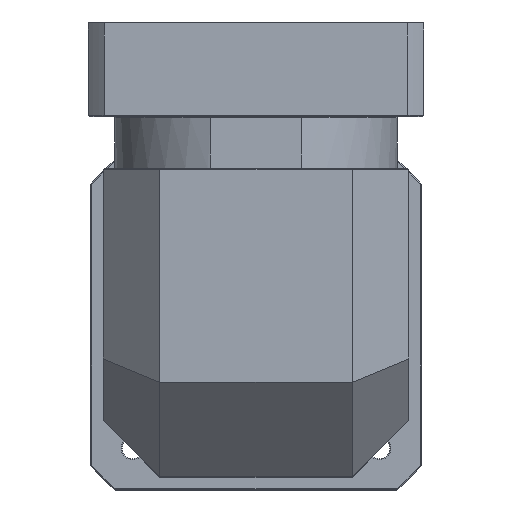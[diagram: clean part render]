
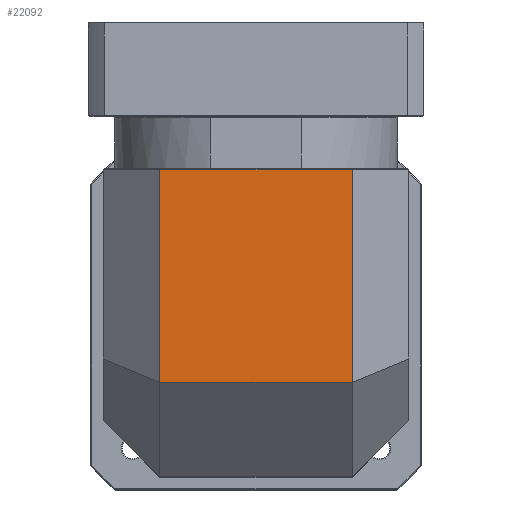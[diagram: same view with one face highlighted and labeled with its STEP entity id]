
A CAD part, top view. The second image highlights one B-rep face of the part: STEP entity #22092.
In plain terms, the highlighted planar face has unit normal (0, 0, 1).
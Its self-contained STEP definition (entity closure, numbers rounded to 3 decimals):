
#1867 = ORIENTED_EDGE ( 'NONE', *, *, #95070, .F. ) ;
#1959 = VECTOR ( 'NONE', #19892, 1000. ) ;
#2561 = ORIENTED_EDGE ( 'NONE', *, *, #8528, .T. ) ;
#7457 = AXIS2_PLACEMENT_3D ( 'NONE', #87449, #66553, #13803 ) ;
#8528 = EDGE_CURVE ( 'NONE', #65611, #48098, #125084, .T. ) ;
#9405 = LINE ( 'NONE', #78450, #128118 ) ;
#13803 = DIRECTION ( 'NONE',  ( 1., 0., 0. ) ) ;
#19135 = ORIENTED_EDGE ( 'NONE', *, *, #80257, .F. ) ;
#19601 = EDGE_LOOP ( 'NONE', ( #19135, #2561, #74886, #1867 ) ) ;
#19892 = DIRECTION ( 'NONE',  ( -1., 0., 0. ) ) ;
#22092 = ADVANCED_FACE ( 'NONE', ( #124587 ), #97439, .F. ) ;
#29695 = CARTESIAN_POINT ( 'NONE',  ( -39.808, 137.496, 119.091 ) ) ;
#35487 = LINE ( 'NONE', #29695, #50167 ) ;
#41232 = CARTESIAN_POINT ( 'NONE',  ( -39.808, 23.996, 119.091 ) ) ;
#42419 = VECTOR ( 'NONE', #101203, 1000. ) ;
#45769 = CARTESIAN_POINT ( 'NONE',  ( -171.808, 136.996, 119.091 ) ) ;
#48098 = VERTEX_POINT ( 'NONE', #103107 ) ;
#50167 = VECTOR ( 'NONE', #93413, 1000. ) ;
#57253 = LINE ( 'NONE', #113831, #1959 ) ;
#63366 = CARTESIAN_POINT ( 'NONE',  ( -39.808, 136.996, 119.091 ) ) ;
#65611 = VERTEX_POINT ( 'NONE', #63366 ) ;
#66553 = DIRECTION ( 'NONE',  ( 0., 0., -1. ) ) ;
#67923 = DIRECTION ( 'NONE',  ( 0., 1., 0. ) ) ;
#69439 = CARTESIAN_POINT ( 'NONE',  ( -141.808, 23.996, 119.091 ) ) ;
#74886 = ORIENTED_EDGE ( 'NONE', *, *, #99052, .F. ) ;
#75274 = VERTEX_POINT ( 'NONE', #41232 ) ;
#78450 = CARTESIAN_POINT ( 'NONE',  ( -141.808, 55.746, 119.091 ) ) ;
#80257 = EDGE_CURVE ( 'NONE', #65611, #75274, #35487, .T. ) ;
#87449 = CARTESIAN_POINT ( 'NONE',  ( -171.808, 137.496, 119.091 ) ) ;
#93413 = DIRECTION ( 'NONE',  ( 0., -1., 0. ) ) ;
#95070 = EDGE_CURVE ( 'NONE', #75274, #127452, #57253, .T. ) ;
#97439 = PLANE ( 'NONE',  #7457 ) ;
#99052 = EDGE_CURVE ( 'NONE', #127452, #48098, #9405, .T. ) ;
#101203 = DIRECTION ( 'NONE',  ( -1., 0., 0. ) ) ;
#103107 = CARTESIAN_POINT ( 'NONE',  ( -141.808, 136.996, 119.091 ) ) ;
#113831 = CARTESIAN_POINT ( 'NONE',  ( -171.808, 23.996, 119.091 ) ) ;
#124587 = FACE_OUTER_BOUND ( 'NONE', #19601, .T. ) ;
#125084 = LINE ( 'NONE', #45769, #42419 ) ;
#127452 = VERTEX_POINT ( 'NONE', #69439 ) ;
#128118 = VECTOR ( 'NONE', #67923, 1000. ) ;
